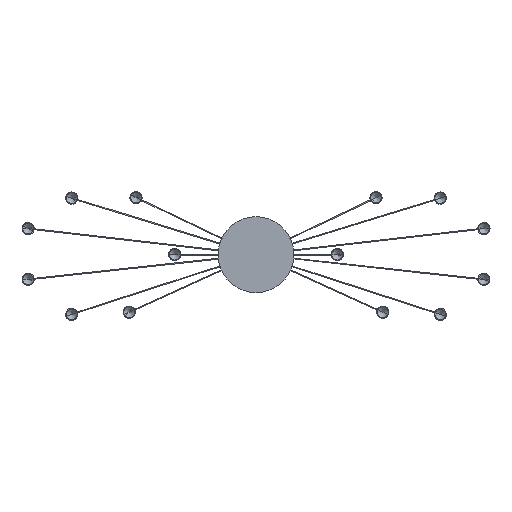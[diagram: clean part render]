
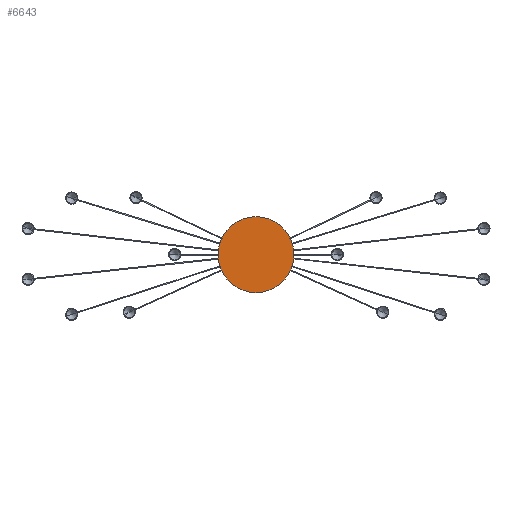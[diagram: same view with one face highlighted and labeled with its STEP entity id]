
A CAD part, front view. The second image highlights one B-rep face of the part: STEP entity #6643.
In plain terms, the highlighted planar face has unit normal (0, -1, 0).
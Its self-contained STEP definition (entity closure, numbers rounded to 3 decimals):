
#31 = EDGE_LOOP ( 'NONE', ( #6336, #4056 ) ) ;
#731 = AXIS2_PLACEMENT_3D ( 'NONE', #4804, #1584, #5429 ) ;
#1078 = FACE_OUTER_BOUND ( 'NONE', #31, .T. ) ;
#1164 = DIRECTION ( 'NONE',  ( 0., -1., 0. ) ) ;
#1215 = VERTEX_POINT ( 'NONE', #3241 ) ;
#1584 = DIRECTION ( 'NONE',  ( 0., -1., 0. ) ) ;
#1883 = CARTESIAN_POINT ( 'NONE',  ( 0., -21.5, 0. ) ) ;
#2403 = EDGE_CURVE ( 'NONE', #1215, #5074, #7229, .T. ) ;
#2755 = CARTESIAN_POINT ( 'NONE',  ( 0., -21.5, -155. ) ) ;
#2966 = EDGE_CURVE ( 'NONE', #5074, #1215, #5863, .T. ) ;
#3241 = CARTESIAN_POINT ( 'NONE',  ( 0., -21.5, 155. ) ) ;
#3604 = AXIS2_PLACEMENT_3D ( 'NONE', #1883, #1164, #8285 ) ;
#3676 = DIRECTION ( 'NONE',  ( 0., 0., -1. ) ) ;
#4056 = ORIENTED_EDGE ( 'NONE', *, *, #2403, .T. ) ;
#4804 = CARTESIAN_POINT ( 'NONE',  ( 0., -21.5, 0. ) ) ;
#5017 = PLANE ( 'NONE',  #5122 ) ;
#5074 = VERTEX_POINT ( 'NONE', #2755 ) ;
#5122 = AXIS2_PLACEMENT_3D ( 'NONE', #5553, #6149, #3676 ) ;
#5429 = DIRECTION ( 'NONE',  ( 0., 0., -1. ) ) ;
#5553 = CARTESIAN_POINT ( 'NONE',  ( 155., -21.5, 0. ) ) ;
#5863 = CIRCLE ( 'NONE', #731, 155. ) ;
#6149 = DIRECTION ( 'NONE',  ( 0., -1., 0. ) ) ;
#6336 = ORIENTED_EDGE ( 'NONE', *, *, #2966, .T. ) ;
#6643 = ADVANCED_FACE ( 'NONE', ( #1078 ), #5017, .T. ) ;
#7229 = CIRCLE ( 'NONE', #3604, 155. ) ;
#8285 = DIRECTION ( 'NONE',  ( 0., 0., -1. ) ) ;
